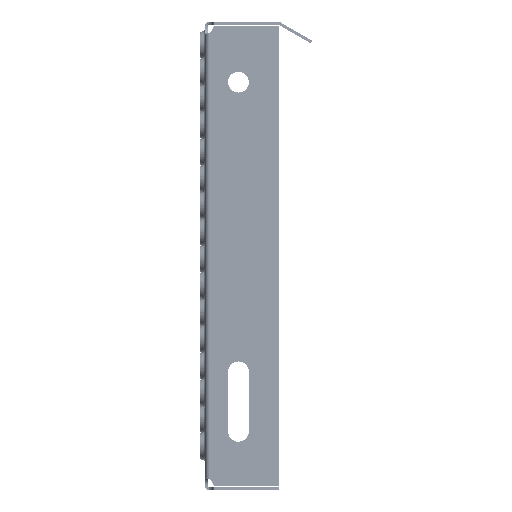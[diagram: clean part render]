
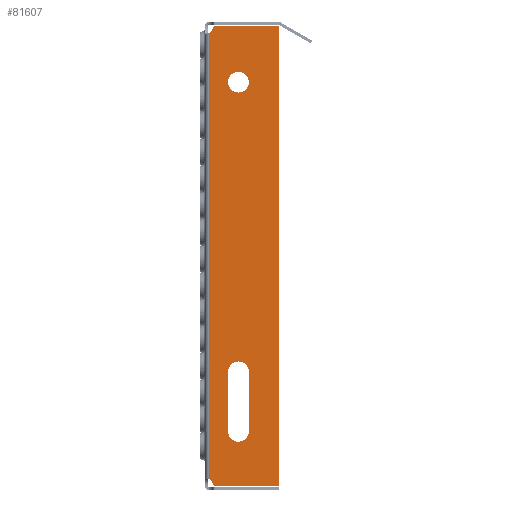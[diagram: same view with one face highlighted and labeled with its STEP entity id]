
A CAD part, left-side view. The second image highlights one B-rep face of the part: STEP entity #81607.
In plain terms, the highlighted planar face has unit normal (-1, 0, 0).
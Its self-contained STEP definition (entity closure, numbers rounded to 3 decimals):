
#1993 = DIRECTION ( 'NONE',  ( 0., 0., 1. ) ) ;
#2217 = ORIENTED_EDGE ( 'NONE', *, *, #15155, .T. ) ;
#4056 = VERTEX_POINT ( 'NONE', #19015 ) ;
#4362 = ORIENTED_EDGE ( 'NONE', *, *, #71113, .T. ) ;
#4933 = VERTEX_POINT ( 'NONE', #15929 ) ;
#5362 = CARTESIAN_POINT ( 'NONE',  ( -500., -50., -167. ) ) ;
#7393 = AXIS2_PLACEMENT_3D ( 'NONE', #38211, #90718, #45741 ) ;
#8662 = VERTEX_POINT ( 'NONE', #76510 ) ;
#9204 = AXIS2_PLACEMENT_3D ( 'NONE', #66686, #36540, #81790 ) ;
#10911 = ORIENTED_EDGE ( 'NONE', *, *, #41270, .T. ) ;
#10927 = CARTESIAN_POINT ( 'NONE',  ( -500., -6.416, 142. ) ) ;
#11190 = AXIS2_PLACEMENT_3D ( 'NONE', #76807, #31906, #84371 ) ;
#11436 = DIRECTION ( 'NONE',  ( -1., 0., 0. ) ) ;
#12120 = ORIENTED_EDGE ( 'NONE', *, *, #53292, .T. ) ;
#12377 = VECTOR ( 'NONE', #59725, 1000. ) ;
#12673 = DIRECTION ( 'NONE',  ( 1., 0., 0. ) ) ;
#15155 = EDGE_CURVE ( 'NONE', #91656, #63779, #21056, .T. ) ;
#15595 = ORIENTED_EDGE ( 'NONE', *, *, #71267, .F. ) ;
#15647 = VECTOR ( 'NONE', #62521, 1000. ) ;
#15929 = CARTESIAN_POINT ( 'NONE',  ( -500., -29.5, -90.5 ) ) ;
#16532 = CIRCLE ( 'NONE', #93312, 1. ) ;
#16652 = EDGE_LOOP ( 'NONE', ( #35829, #69692, #83246, #2217, #4362, #12120, #17513, #10911 ) ) ;
#16663 = LINE ( 'NONE', #16806, #96499 ) ;
#16785 = CARTESIAN_POINT ( 'NONE',  ( -500., -6.416, 141. ) ) ;
#16788 = CARTESIAN_POINT ( 'NONE',  ( -500., -3., -172.916 ) ) ;
#16806 = CARTESIAN_POINT ( 'NONE',  ( -500., -50., -167. ) ) ;
#17482 = DIRECTION ( 'NONE',  ( -1., 0., 0. ) ) ;
#17513 = ORIENTED_EDGE ( 'NONE', *, *, #46984, .T. ) ;
#18728 = VECTOR ( 'NONE', #96311, 1000. ) ;
#19015 = CARTESIAN_POINT ( 'NONE',  ( -500., -29.5, -130.5 ) ) ;
#19494 = EDGE_CURVE ( 'NONE', #4056, #4933, #95497, .T. ) ;
#21056 = LINE ( 'NONE', #66356, #18728 ) ;
#22910 = AXIS2_PLACEMENT_3D ( 'NONE', #57544, #12673, #65075 ) ;
#23816 = EDGE_LOOP ( 'NONE', ( #56022 ) ) ;
#24167 = CIRCLE ( 'NONE', #7393, 7. ) ;
#24295 = DIRECTION ( 'NONE',  ( 0., 0., 1. ) ) ;
#24838 = CARTESIAN_POINT ( 'NONE',  ( -500., -29.5, -90.5 ) ) ;
#26518 = EDGE_CURVE ( 'NONE', #76019, #83773, #58078, .T. ) ;
#27571 = CARTESIAN_POINT ( 'NONE',  ( -500., -22.5, -130.5 ) ) ;
#29323 = PLANE ( 'NONE',  #9204 ) ;
#29345 = EDGE_CURVE ( 'NONE', #82583, #64169, #70429, .T. ) ;
#31906 = DIRECTION ( 'NONE',  ( 1., 0., 0. ) ) ;
#33288 = CIRCLE ( 'NONE', #22910, 5. ) ;
#35119 = DIRECTION ( 'NONE',  ( 0., 0., -1. ) ) ;
#35563 = CARTESIAN_POINT ( 'NONE',  ( -500., -22.5, 97.5 ) ) ;
#35829 = ORIENTED_EDGE ( 'NONE', *, *, #40296, .F. ) ;
#36540 = DIRECTION ( 'NONE',  ( 1., 0., 0. ) ) ;
#38211 = CARTESIAN_POINT ( 'NONE',  ( -500., -22.5, -90.5 ) ) ;
#40296 = EDGE_CURVE ( 'NONE', #76019, #52726, #75689, .T. ) ;
#40735 = CARTESIAN_POINT ( 'NONE',  ( -500., -15.5, -130.5 ) ) ;
#41270 = EDGE_CURVE ( 'NONE', #8662, #52726, #33288, .T. ) ;
#43146 = CARTESIAN_POINT ( 'NONE',  ( -500., -50., 142. ) ) ;
#43543 = EDGE_CURVE ( 'NONE', #4933, #82583, #24167, .T. ) ;
#45741 = DIRECTION ( 'NONE',  ( 0., 0., -1. ) ) ;
#46984 = EDGE_CURVE ( 'NONE', #75487, #8662, #55119, .T. ) ;
#50620 = EDGE_CURVE ( 'NONE', #96911, #96911, #65655, .T. ) ;
#52726 = VERTEX_POINT ( 'NONE', #61138 ) ;
#52759 = CARTESIAN_POINT ( 'NONE',  ( -500., -6.416, -167. ) ) ;
#53292 = EDGE_CURVE ( 'NONE', #95096, #75487, #92192, .T. ) ;
#53378 = VECTOR ( 'NONE', #69198, 1000. ) ;
#54070 = CARTESIAN_POINT ( 'NONE',  ( -500., -3., -162.67 ) ) ;
#55119 = CIRCLE ( 'NONE', #62419, 1. ) ;
#56022 = ORIENTED_EDGE ( 'NONE', *, *, #50620, .F. ) ;
#56301 = CARTESIAN_POINT ( 'NONE',  ( -500., -6.416, -166. ) ) ;
#57544 = CARTESIAN_POINT ( 'NONE',  ( -500., -0.5, 142. ) ) ;
#57724 = DIRECTION ( 'NONE',  ( 0., 0., -1. ) ) ;
#58078 = CIRCLE ( 'NONE', #11190, 5. ) ;
#59725 = DIRECTION ( 'NONE',  ( 0., 1., 0. ) ) ;
#59861 = VECTOR ( 'NONE', #57724, 1000. ) ;
#59979 = ORIENTED_EDGE ( 'NONE', *, *, #43543, .F. ) ;
#60482 = ORIENTED_EDGE ( 'NONE', *, *, #29345, .F. ) ;
#61138 = CARTESIAN_POINT ( 'NONE',  ( -500., -3., 137.67 ) ) ;
#62213 = EDGE_LOOP ( 'NONE', ( #60482, #59979, #75952, #15595 ) ) ;
#62334 = CARTESIAN_POINT ( 'NONE',  ( -500., -22.5, 104.5 ) ) ;
#62419 = AXIS2_PLACEMENT_3D ( 'NONE', #16785, #69193, #24295 ) ;
#62521 = DIRECTION ( 'NONE',  ( 0., 0., 1. ) ) ;
#62585 = CARTESIAN_POINT ( 'NONE',  ( -500., -15.5, -90.5 ) ) ;
#63779 = VERTEX_POINT ( 'NONE', #5362 ) ;
#63851 = DIRECTION ( 'NONE',  ( 0., 0., -1. ) ) ;
#64169 = VERTEX_POINT ( 'NONE', #40735 ) ;
#64937 = CARTESIAN_POINT ( 'NONE',  ( -500., -15.5, -90.5 ) ) ;
#65075 = DIRECTION ( 'NONE',  ( 0., 0., -1. ) ) ;
#65574 = FACE_BOUND ( 'NONE', #23816, .T. ) ;
#65655 = CIRCLE ( 'NONE', #74024, 7. ) ;
#66356 = CARTESIAN_POINT ( 'NONE',  ( -500., -6.416, -167. ) ) ;
#66686 = CARTESIAN_POINT ( 'NONE',  ( -500., 0.5, -172.916 ) ) ;
#69193 = DIRECTION ( 'NONE',  ( -1., 0., 0. ) ) ;
#69198 = DIRECTION ( 'NONE',  ( 0., 0., 1. ) ) ;
#69692 = ORIENTED_EDGE ( 'NONE', *, *, #26518, .T. ) ;
#69904 = DIRECTION ( 'NONE',  ( 0., 0., -1. ) ) ;
#70429 = LINE ( 'NONE', #64937, #59861 ) ;
#71113 = EDGE_CURVE ( 'NONE', #63779, #95096, #16663, .T. ) ;
#71267 = EDGE_CURVE ( 'NONE', #64169, #4056, #77580, .T. ) ;
#74024 = AXIS2_PLACEMENT_3D ( 'NONE', #62334, #17482, #69904 ) ;
#75487 = VERTEX_POINT ( 'NONE', #10927 ) ;
#75689 = LINE ( 'NONE', #16788, #53378 ) ;
#75952 = ORIENTED_EDGE ( 'NONE', *, *, #19494, .F. ) ;
#76019 = VERTEX_POINT ( 'NONE', #54070 ) ;
#76510 = CARTESIAN_POINT ( 'NONE',  ( -500., -5.43, 141.167 ) ) ;
#76807 = CARTESIAN_POINT ( 'NONE',  ( -500., -0.5, -167. ) ) ;
#77580 = CIRCLE ( 'NONE', #86564, 7. ) ;
#80017 = DIRECTION ( 'NONE',  ( -1., 0., 0. ) ) ;
#81607 = ADVANCED_FACE ( 'NONE', ( #90270, #65574, #87917 ), #29323, .F. ) ;
#81790 = DIRECTION ( 'NONE',  ( 0., 0., -1. ) ) ;
#82070 = CARTESIAN_POINT ( 'NONE',  ( -500., -5.43, -166.167 ) ) ;
#82583 = VERTEX_POINT ( 'NONE', #62585 ) ;
#83246 = ORIENTED_EDGE ( 'NONE', *, *, #86428, .T. ) ;
#83773 = VERTEX_POINT ( 'NONE', #82070 ) ;
#84371 = DIRECTION ( 'NONE',  ( 0., 0., -1. ) ) ;
#86428 = EDGE_CURVE ( 'NONE', #83773, #91656, #16532, .T. ) ;
#86564 = AXIS2_PLACEMENT_3D ( 'NONE', #27571, #80017, #35119 ) ;
#87917 = FACE_BOUND ( 'NONE', #62213, .T. ) ;
#89940 = CARTESIAN_POINT ( 'NONE',  ( -500., -50., 142. ) ) ;
#90270 = FACE_OUTER_BOUND ( 'NONE', #16652, .T. ) ;
#90718 = DIRECTION ( 'NONE',  ( -1., 0., 0. ) ) ;
#91656 = VERTEX_POINT ( 'NONE', #52759 ) ;
#92192 = LINE ( 'NONE', #89940, #12377 ) ;
#93312 = AXIS2_PLACEMENT_3D ( 'NONE', #56301, #11436, #63851 ) ;
#95096 = VERTEX_POINT ( 'NONE', #43146 ) ;
#95497 = LINE ( 'NONE', #24838, #15647 ) ;
#96311 = DIRECTION ( 'NONE',  ( 0., -1., 0. ) ) ;
#96499 = VECTOR ( 'NONE', #1993, 1000. ) ;
#96911 = VERTEX_POINT ( 'NONE', #35563 ) ;
